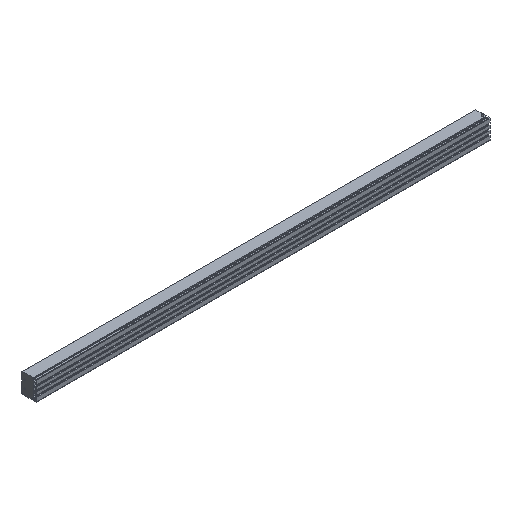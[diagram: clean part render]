
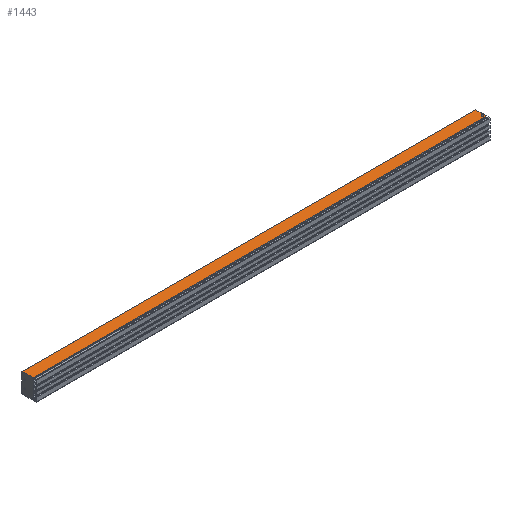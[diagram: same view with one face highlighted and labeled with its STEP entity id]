
A CAD part, isometric view. The second image highlights one B-rep face of the part: STEP entity #1443.
In plain terms, the highlighted planar face has unit normal (0, 0, 1).
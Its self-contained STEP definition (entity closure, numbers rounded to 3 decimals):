
#26 = DIRECTION ( 'NONE',  ( -1., 0., 0. ) ) ;
#41 = PLANE ( 'NONE',  #604 ) ;
#57 = DIRECTION ( 'NONE',  ( 0., -1., 0. ) ) ;
#64 = DIRECTION ( 'NONE',  ( -1., 0., 0. ) ) ;
#86 = DIRECTION ( 'NONE',  ( 0., 0., 1. ) ) ;
#110 = DIRECTION ( 'NONE',  ( -1., 0., 0. ) ) ;
#152 = CARTESIAN_POINT ( 'NONE',  ( 0., 26.7, 0. ) ) ;
#201 = AXIS2_PLACEMENT_3D ( 'NONE', #1641, #741, #26 ) ;
#239 = LINE ( 'NONE', #258, #1417 ) ;
#258 = CARTESIAN_POINT ( 'NONE',  ( 850., 26.7, 0. ) ) ;
#291 = DIRECTION ( 'NONE',  ( 1., 0., 0. ) ) ;
#360 = ORIENTED_EDGE ( 'NONE', *, *, #766, .F. ) ;
#409 = CARTESIAN_POINT ( 'NONE',  ( 850., 26.7, 0. ) ) ;
#538 = LINE ( 'NONE', #2079, #1880 ) ;
#604 = AXIS2_PLACEMENT_3D ( 'NONE', #1191, #2284, #110 ) ;
#637 = CARTESIAN_POINT ( 'NONE',  ( 847.15, 11.392, 0. ) ) ;
#741 = DIRECTION ( 'NONE',  ( 0., 0., 1. ) ) ;
#751 = CARTESIAN_POINT ( 'NONE',  ( 0., 0., 0. ) ) ;
#762 = CARTESIAN_POINT ( 'NONE',  ( 850., 6.6, 0. ) ) ;
#766 = EDGE_CURVE ( 'NONE', #1635, #2274, #778, .T. ) ;
#778 = CIRCLE ( 'NONE', #1186, 1.85 ) ;
#816 = DIRECTION ( 'NONE',  ( -1., 0., 0. ) ) ;
#819 = ORIENTED_EDGE ( 'NONE', *, *, #1184, .T. ) ;
#827 = CARTESIAN_POINT ( 'NONE',  ( 849., 11.392, 0. ) ) ;
#926 = DIRECTION ( 'NONE',  ( 0., -1., 0. ) ) ;
#940 = CARTESIAN_POINT ( 'NONE',  ( 850., 0., 0. ) ) ;
#1055 = ORIENTED_EDGE ( 'NONE', *, *, #1857, .T. ) ;
#1111 = VERTEX_POINT ( 'NONE', #152 ) ;
#1149 = FACE_OUTER_BOUND ( 'NONE', #1823, .T. ) ;
#1184 = EDGE_CURVE ( 'NONE', #1111, #1907, #1482, .T. ) ;
#1186 = AXIS2_PLACEMENT_3D ( 'NONE', #637, #86, #816 ) ;
#1191 = CARTESIAN_POINT ( 'NONE',  ( 850., 0., 0. ) ) ;
#1214 = EDGE_CURVE ( 'NONE', #2274, #1635, #1817, .T. ) ;
#1300 = VERTEX_POINT ( 'NONE', #762 ) ;
#1345 = VERTEX_POINT ( 'NONE', #409 ) ;
#1360 = ORIENTED_EDGE ( 'NONE', *, *, #1826, .F. ) ;
#1391 = CARTESIAN_POINT ( 'NONE',  ( 845.3, 11.392, 0. ) ) ;
#1417 = VECTOR ( 'NONE', #64, 1000. ) ;
#1443 = ADVANCED_FACE ( 'NONE', ( #1791, #1149 ), #41, .F. ) ;
#1476 = ORIENTED_EDGE ( 'NONE', *, *, #1214, .F. ) ;
#1482 = LINE ( 'NONE', #751, #1879 ) ;
#1529 = VECTOR ( 'NONE', #57, 1000. ) ;
#1573 = EDGE_CURVE ( 'NONE', #1907, #1300, #538, .T. ) ;
#1635 = VERTEX_POINT ( 'NONE', #1391 ) ;
#1641 = CARTESIAN_POINT ( 'NONE',  ( 847.15, 11.392, 0. ) ) ;
#1706 = CARTESIAN_POINT ( 'NONE',  ( 0., 6.6, 0. ) ) ;
#1761 = EDGE_LOOP ( 'NONE', ( #360, #1476 ) ) ;
#1776 = LINE ( 'NONE', #940, #1529 ) ;
#1791 = FACE_BOUND ( 'NONE', #1761, .T. ) ;
#1817 = CIRCLE ( 'NONE', #201, 1.85 ) ;
#1823 = EDGE_LOOP ( 'NONE', ( #1360, #1055, #819, #2147 ) ) ;
#1826 = EDGE_CURVE ( 'NONE', #1345, #1300, #1776, .T. ) ;
#1857 = EDGE_CURVE ( 'NONE', #1345, #1111, #239, .T. ) ;
#1879 = VECTOR ( 'NONE', #926, 1000. ) ;
#1880 = VECTOR ( 'NONE', #291, 1000. ) ;
#1907 = VERTEX_POINT ( 'NONE', #1706 ) ;
#2079 = CARTESIAN_POINT ( 'NONE',  ( 0., 6.6, 0. ) ) ;
#2147 = ORIENTED_EDGE ( 'NONE', *, *, #1573, .T. ) ;
#2274 = VERTEX_POINT ( 'NONE', #827 ) ;
#2284 = DIRECTION ( 'NONE',  ( 0., 0., -1. ) ) ;
